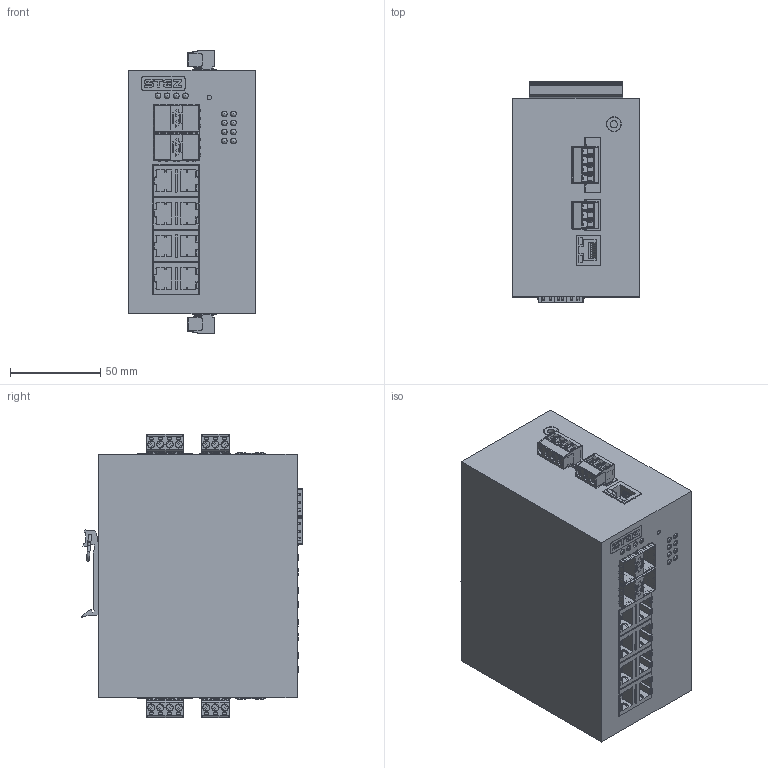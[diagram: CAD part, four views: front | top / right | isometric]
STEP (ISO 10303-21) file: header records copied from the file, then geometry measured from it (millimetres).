
FILE_DESCRIPTION(('TFLEX Exchange Step'),'2;1');
FILE_NAME('70110030_STEZ3308G-4GSFP-POE.stp', '2025-08-28T08:34:32+03:00',('YLedovskikh'),('Unknown organisation'),'TFLEX Exchange 2023.2','T-FLEX CAD','Unknown authorisation');
FILE_SCHEMA( ('AUTOMOTIVE_DESIGN { 1 0 10303 214 1 1 1 1 }') );
Length unit declared in the file: millimetre
Products named in the file (1): 70110030_STEZ3308G-4GSFP-POE:1
Bounding box: 70 x 122.25 x 156.6 mm (x, y, z)
Volume: 1019190.2 mm3; surface area: 143893.9 mm2
Topology: 1 solids, 31 shells, 3235 faces, 9057 edges, 6032 vertices
Faces by surface type: plane 2311, cylinder 672, bspline 160, sphere 34, extrusion 33, cone 14, torus 11
Full cylindrical faces by diameter (mm): 0.9 x8, 1 x1, 1.3 x28, 1.5 x2, 2 x8, 2.4 x1, 2.5 x1, 3 x28, 3.2 x12, 3.25 x4, 3.821 x14, 4 x16, 7.9 x2, 8.3 x2
Entity records: 108093 total; most frequent: CARTESIAN_POINT 22827, ORIENTED_EDGE 18090, DIRECTION 16347, EDGE_CURVE 9045, VECTOR 6691, LINE 6658, VERTEX_POINT 6032, AXIS2_PLACEMENT_3D 4828
